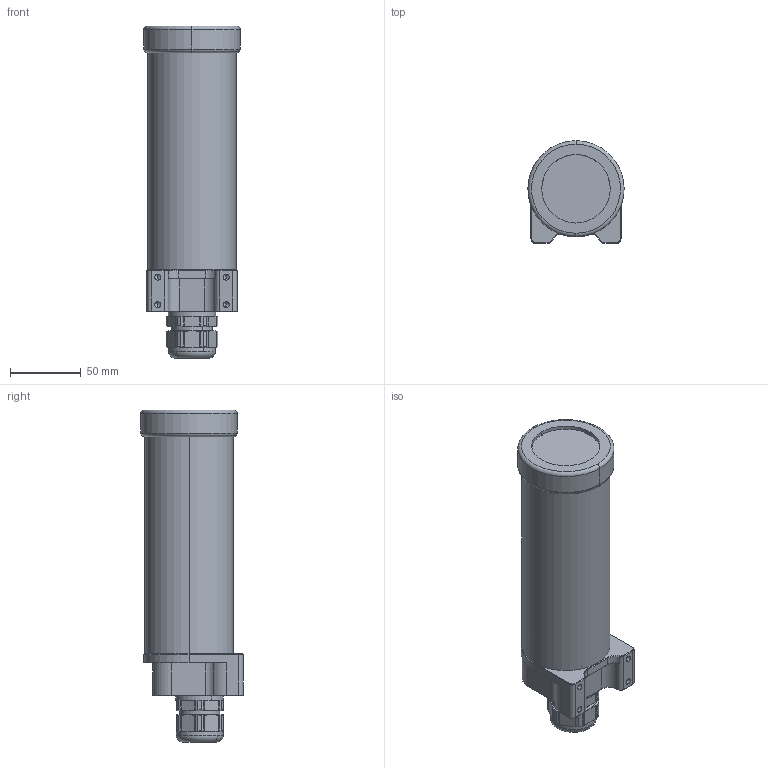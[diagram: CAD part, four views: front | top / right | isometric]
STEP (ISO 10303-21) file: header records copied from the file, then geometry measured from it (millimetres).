
FILE_DESCRIPTION (( 'STEP AP203' ), '1' );
FILE_NAME ('24C-EH.STEP', '2022-03-03T19:40:59', ( '' ), ( '' ), 'SwSTEP 2.0', 'SolidWorks 2021', '' );
FILE_SCHEMA (( 'CONFIG_CONTROL_DESIGN' ));
Length unit declared in the file: inch
Products named in the file (18): PG21-B01; 500031; 24C-EH; 400119; 91292A108_91292A108; 200717; PG21-S01; PG21-I01; FL2-019-R0; SV-0614H (Rough); 9452K141_Expanded; PG21-01-01-01-03; 200428; 4452K541; PG21-N03; 201117; Triton-C-Mount-CAD; 200316
Assembly tree (21 placements, depth 3):
  24C-EH
    200316
    200428
    201117
    200717
    400119
    500031
    PG21-01-01-01-03
      PG21-B01
      PG21-I01
      PG21-S01
      PG21-N03
    4452K541  x2
    9452K141_Expanded
    91292A108_91292A108  x3
    FL2-019-R0
    SV-0614H (Rough)  x2
    Triton-C-Mount-CAD
Bounding box: 67.82 x 72.01 x 234.05 mm (x, y, z)
Volume: 434075.7 mm3; surface area: 177656.2 mm2
Topology: 31 solids, 31 shells, 2282 faces, 5746 edges, 3622 vertices
Faces by surface type: plane 829, cylinder 782, cone 428, bspline 170, torus 73
Entity records: 78397 total; most frequent: CARTESIAN_POINT 28047, ORIENTED_EDGE 10306, DIRECTION 9904, EDGE_CURVE 5153, AXIS2_PLACEMENT_3D 3681, VERTEX_POINT 3269, LINE 2542, VECTOR 2542
